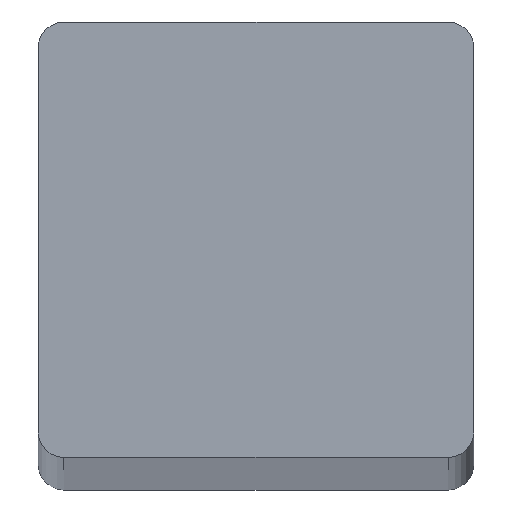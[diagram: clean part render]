
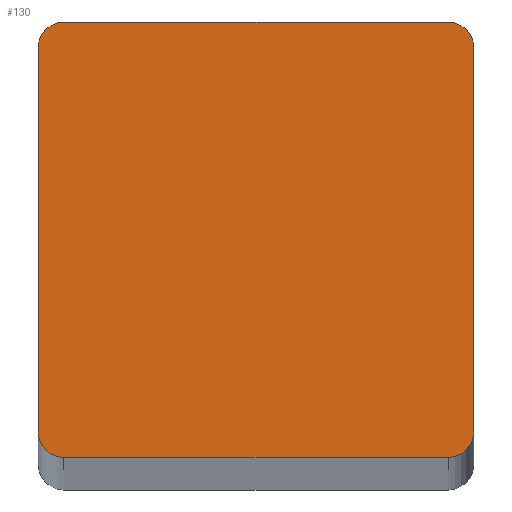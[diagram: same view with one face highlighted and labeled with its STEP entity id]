
A CAD part, top view. The second image highlights one B-rep face of the part: STEP entity #130.
In plain terms, the highlighted planar face has unit normal (0, 0, 1).
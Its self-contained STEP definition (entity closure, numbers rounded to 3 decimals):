
#13 = DIRECTION ( 'NONE',  ( 0., 0., 1. ) ) ;
#16 = CARTESIAN_POINT ( 'NONE',  ( 7.5, 8.5, 363.75 ) ) ;
#24 = CARTESIAN_POINT ( 'NONE',  ( -7.5, 8.5, 363.75 ) ) ;
#29 = VERTEX_POINT ( 'NONE', #124 ) ;
#30 = DIRECTION ( 'NONE',  ( 0., 0., 1. ) ) ;
#35 = VERTEX_POINT ( 'NONE', #198 ) ;
#40 = EDGE_CURVE ( 'NONE', #35, #391, #112, .T. ) ;
#41 = EDGE_CURVE ( 'NONE', #84, #44, #278, .T. ) ;
#44 = VERTEX_POINT ( 'NONE', #24 ) ;
#54 = AXIS2_PLACEMENT_3D ( 'NONE', #407, #209, #372 ) ;
#55 = CIRCLE ( 'NONE', #54, 1. ) ;
#57 = ORIENTED_EDGE ( 'NONE', *, *, #287, .T. ) ;
#66 = CARTESIAN_POINT ( 'NONE',  ( 7.5, -8.5, 363.75 ) ) ;
#84 = VERTEX_POINT ( 'NONE', #16 ) ;
#91 = VECTOR ( 'NONE', #363, 1000. ) ;
#96 = VECTOR ( 'NONE', #134, 1000. ) ;
#98 = EDGE_CURVE ( 'NONE', #192, #35, #174, .T. ) ;
#107 = CARTESIAN_POINT ( 'NONE',  ( -8.5, -7.5, 363.75 ) ) ;
#108 = EDGE_CURVE ( 'NONE', #44, #404, #343, .T. ) ;
#112 = LINE ( 'NONE', #433, #91 ) ;
#114 = ORIENTED_EDGE ( 'NONE', *, *, #40, .T. ) ;
#116 = LINE ( 'NONE', #213, #96 ) ;
#117 = EDGE_LOOP ( 'NONE', ( #226, #446, #114, #348, #331, #57, #267, #374 ) ) ;
#121 = DIRECTION ( 'NONE',  ( 0., 0., 1. ) ) ;
#124 = CARTESIAN_POINT ( 'NONE',  ( 8.5, 7.5, 363.75 ) ) ;
#129 = DIRECTION ( 'NONE',  ( -1., 0., 0. ) ) ;
#130 = ADVANCED_FACE ( 'NONE', ( #251 ), #189, .T. ) ;
#134 = DIRECTION ( 'NONE',  ( 0., 1., 0. ) ) ;
#149 = VERTEX_POINT ( 'NONE', #164 ) ;
#153 = CARTESIAN_POINT ( 'NONE',  ( -8.5, -8.5, 363.75 ) ) ;
#154 = CARTESIAN_POINT ( 'NONE',  ( -7.5, 7.5, 363.75 ) ) ;
#164 = CARTESIAN_POINT ( 'NONE',  ( 8.5, -7.5, 363.75 ) ) ;
#174 = CIRCLE ( 'NONE', #281, 1. ) ;
#178 = EDGE_CURVE ( 'NONE', #391, #149, #242, .T. ) ;
#183 = VECTOR ( 'NONE', #129, 1000. ) ;
#189 = PLANE ( 'NONE',  #383 ) ;
#192 = VERTEX_POINT ( 'NONE', #107 ) ;
#198 = CARTESIAN_POINT ( 'NONE',  ( -7.5, -8.5, 363.75 ) ) ;
#200 = LINE ( 'NONE', #437, #284 ) ;
#209 = DIRECTION ( 'NONE',  ( 0., 0., 1. ) ) ;
#211 = DIRECTION ( 'NONE',  ( 1., 0., 0. ) ) ;
#213 = CARTESIAN_POINT ( 'NONE',  ( 8.5, 8.5, 363.75 ) ) ;
#226 = ORIENTED_EDGE ( 'NONE', *, *, #392, .T. ) ;
#227 = DIRECTION ( 'NONE',  ( 1., 0., 0. ) ) ;
#241 = CARTESIAN_POINT ( 'NONE',  ( 7.5, -7.5, 363.75 ) ) ;
#242 = CIRCLE ( 'NONE', #410, 1. ) ;
#246 = DIRECTION ( 'NONE',  ( 0., -1., 0. ) ) ;
#251 = FACE_OUTER_BOUND ( 'NONE', #117, .T. ) ;
#256 = CARTESIAN_POINT ( 'NONE',  ( -7.5, -7.5, 363.75 ) ) ;
#267 = ORIENTED_EDGE ( 'NONE', *, *, #41, .T. ) ;
#278 = LINE ( 'NONE', #333, #183 ) ;
#281 = AXIS2_PLACEMENT_3D ( 'NONE', #256, #13, #227 ) ;
#284 = VECTOR ( 'NONE', #246, 1000. ) ;
#287 = EDGE_CURVE ( 'NONE', #29, #84, #55, .T. ) ;
#297 = AXIS2_PLACEMENT_3D ( 'NONE', #154, #357, #325 ) ;
#324 = DIRECTION ( 'NONE',  ( 1., 0., 0. ) ) ;
#325 = DIRECTION ( 'NONE',  ( 1., 0., 0. ) ) ;
#331 = ORIENTED_EDGE ( 'NONE', *, *, #411, .T. ) ;
#333 = CARTESIAN_POINT ( 'NONE',  ( -8.5, 8.5, 363.75 ) ) ;
#343 = CIRCLE ( 'NONE', #297, 1. ) ;
#348 = ORIENTED_EDGE ( 'NONE', *, *, #178, .T. ) ;
#357 = DIRECTION ( 'NONE',  ( 0., 0., 1. ) ) ;
#363 = DIRECTION ( 'NONE',  ( 1., 0., 0. ) ) ;
#372 = DIRECTION ( 'NONE',  ( 1., 0., 0. ) ) ;
#374 = ORIENTED_EDGE ( 'NONE', *, *, #108, .T. ) ;
#383 = AXIS2_PLACEMENT_3D ( 'NONE', #153, #121, #324 ) ;
#391 = VERTEX_POINT ( 'NONE', #66 ) ;
#392 = EDGE_CURVE ( 'NONE', #404, #192, #200, .T. ) ;
#404 = VERTEX_POINT ( 'NONE', #414 ) ;
#407 = CARTESIAN_POINT ( 'NONE',  ( 7.5, 7.5, 363.75 ) ) ;
#410 = AXIS2_PLACEMENT_3D ( 'NONE', #241, #30, #211 ) ;
#411 = EDGE_CURVE ( 'NONE', #149, #29, #116, .T. ) ;
#414 = CARTESIAN_POINT ( 'NONE',  ( -8.5, 7.5, 363.75 ) ) ;
#433 = CARTESIAN_POINT ( 'NONE',  ( -8.5, -8.5, 363.75 ) ) ;
#437 = CARTESIAN_POINT ( 'NONE',  ( -8.5, 8.5, 363.75 ) ) ;
#446 = ORIENTED_EDGE ( 'NONE', *, *, #98, .T. ) ;
